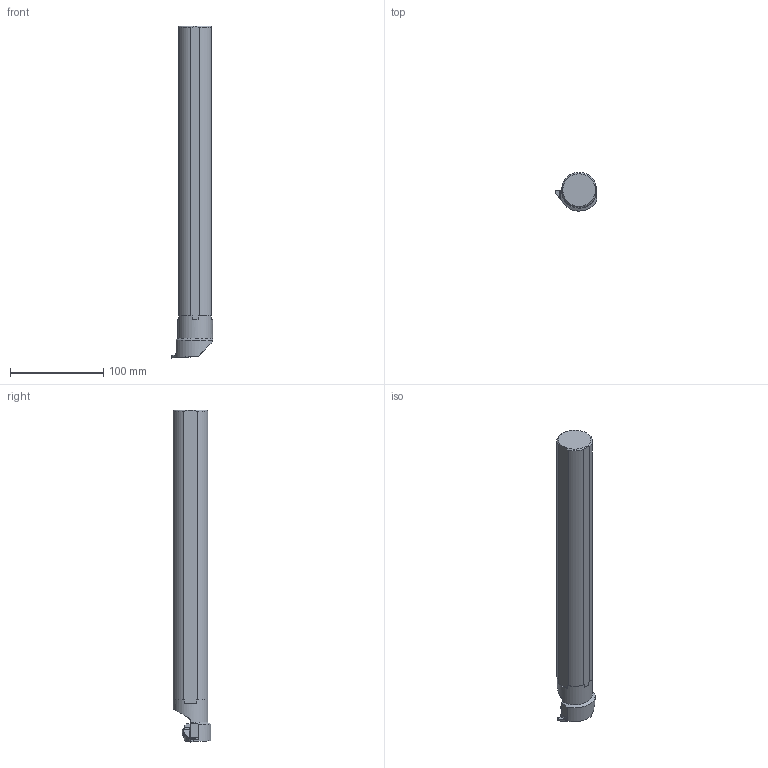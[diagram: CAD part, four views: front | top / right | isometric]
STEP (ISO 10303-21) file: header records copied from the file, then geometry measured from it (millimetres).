
FILE_DESCRIPTION(/* description */ (''),/* implementation_level */ '2;1');
FILE_NAME(/* name */ 'A24NER3_GTM.stp',/* time_stamp */ '2017-07-12T18:31:43+05:00',/* author */ (''),/* organization */ (''),/* preprocessor_version */ 'ST-DEVELOPER v15',/* originating_system */ 'SIEMENS PLM Software NX 9.0',/* authorisation */ '');
FILE_SCHEMA (('AUTOMOTIVE_DESIGN { 1 0 10303 214 3 1 1 1 }'));
Length unit declared in the file: millimetre
Products named in the file (1): A24NER3_GTM
Bounding box: 44.13 x 40.6 x 355.6 mm (x, y, z)
Volume: 376769.7 mm3; surface area: 45235.6 mm2
Topology: 4 solids, 4 shells, 147 faces, 415 edges, 286 vertices
Faces by surface type: plane 76, cylinder 62, bspline 5, cone 4
Full cylindrical faces by diameter (mm): 4.826 x1, 5.791 x1, 8.992 x1, 10.008 x1, 37.452 x1
Entity records: 4995 total; most frequent: CARTESIAN_POINT 1050, DIRECTION 821, ORIENTED_EDGE 794, EDGE_CURVE 397, AXIS2_PLACEMENT_3D 293, VERTEX_POINT 267, LINE 235, VECTOR 235
